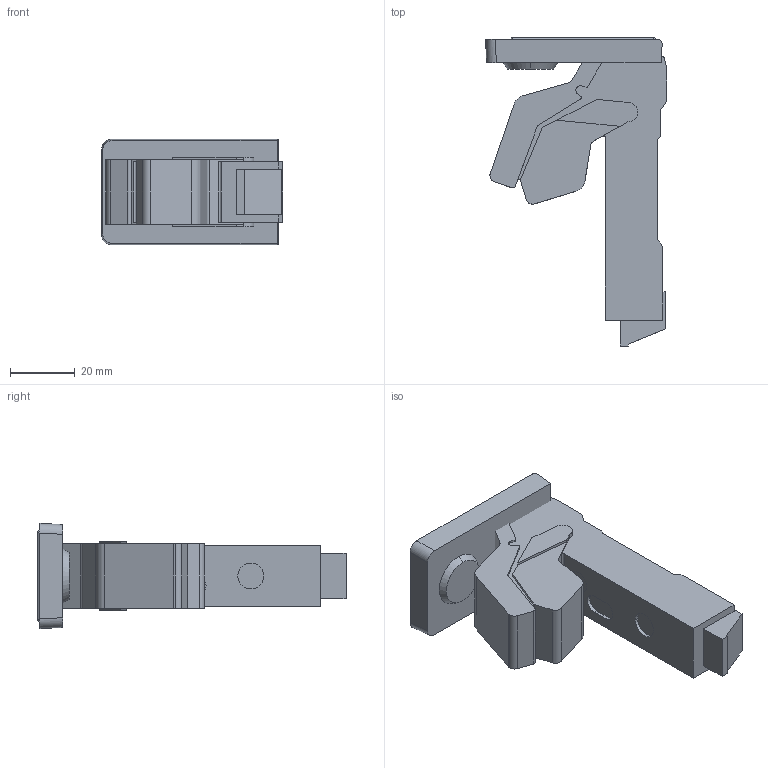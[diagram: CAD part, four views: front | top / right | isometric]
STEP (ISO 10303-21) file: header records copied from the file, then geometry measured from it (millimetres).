
FILE_DESCRIPTION (( 'STEP AP214' ), '1' );
FILE_NAME ('Scharnier-Mirro_geschlossen_Klebesockel.STEP', '2014-02-21T08:45:43', ( '' ), ( '' ), 'SwSTEP 2.0', 'SolidWorks 2013', '' );
FILE_SCHEMA (( 'AUTOMOTIVE_DESIGN' ));
Length unit declared in the file: millimetre
Products named in the file (1): Scharnier-Mirro_geschlossen_Klebesockel
Bounding box: 55.87 x 95.11 x 32.5 mm (x, y, z)
Volume: 61285.5 mm3; surface area: 15844.6 mm2
Topology: 2 solids, 2 shells, 120 faces, 333 edges, 218 vertices
Faces by surface type: plane 69, cylinder 45, sphere 4, cone 2
Entity records: 3856 total; most frequent: CARTESIAN_POINT 686, ORIENTED_EDGE 658, DIRECTION 657, EDGE_CURVE 329, VECTOR 231, LINE 231, VERTEX_POINT 218, AXIS2_PLACEMENT_3D 213
